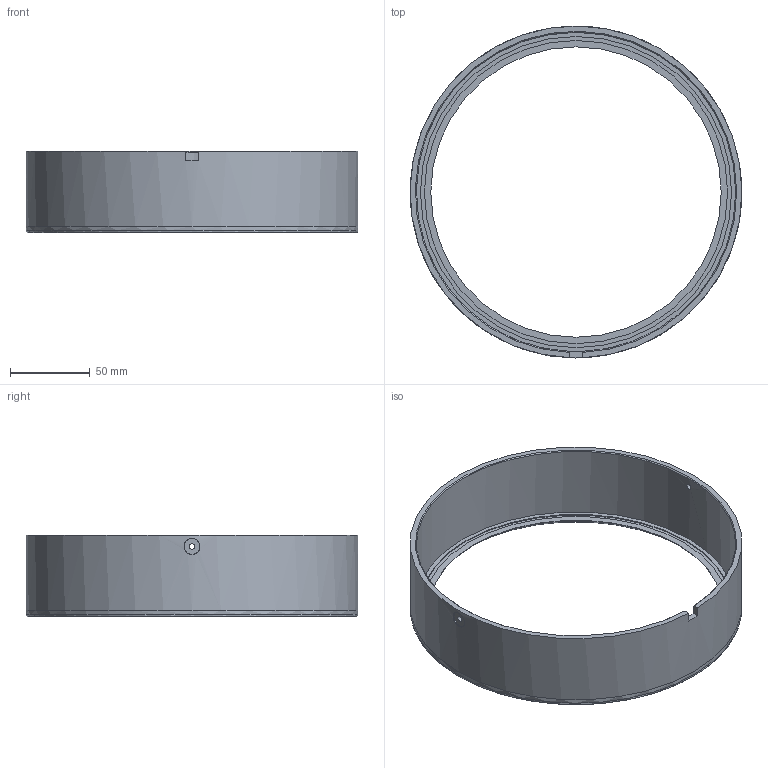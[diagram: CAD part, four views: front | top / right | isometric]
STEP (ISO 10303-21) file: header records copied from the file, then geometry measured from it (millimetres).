
FILE_DESCRIPTION(('FreeCAD Model'),'2;1');
FILE_NAME('Open CASCADE Shape Model','2024-03-23T00:14:28',(''),(''), 'Open CASCADE STEP processor 7.6','FreeCAD','Unknown');
FILE_SCHEMA(('AUTOMOTIVE_DESIGN { 1 0 10303 214 1 1 1 1 }'));
Length unit declared in the file: millimetre
Products named in the file (1): Sleeve
Bounding box: 208 x 208 x 51 mm (x, y, z)
Volume: 143504.3 mm3; surface area: 80088.6 mm2
Topology: 1 solids, 1 shells, 25 faces, 58 edges, 37 vertices
Faces by surface type: plane 10, cylinder 10, cone 4, bspline 1
Full cylindrical faces by diameter (mm): 3.5 x2, 10 x2, 182 x1, 190 x1, 195 x1, 200.2 x1, 208 x2
Entity records: 1108 total; most frequent: CARTESIAN_POINT 508, DIRECTION 121, ORIENTED_EDGE 116, EDGE_CURVE 58, AXIS2_PLACEMENT_3D 49, VERTEX_POINT 37, FACE_BOUND 33, EDGE_LOOP 33
